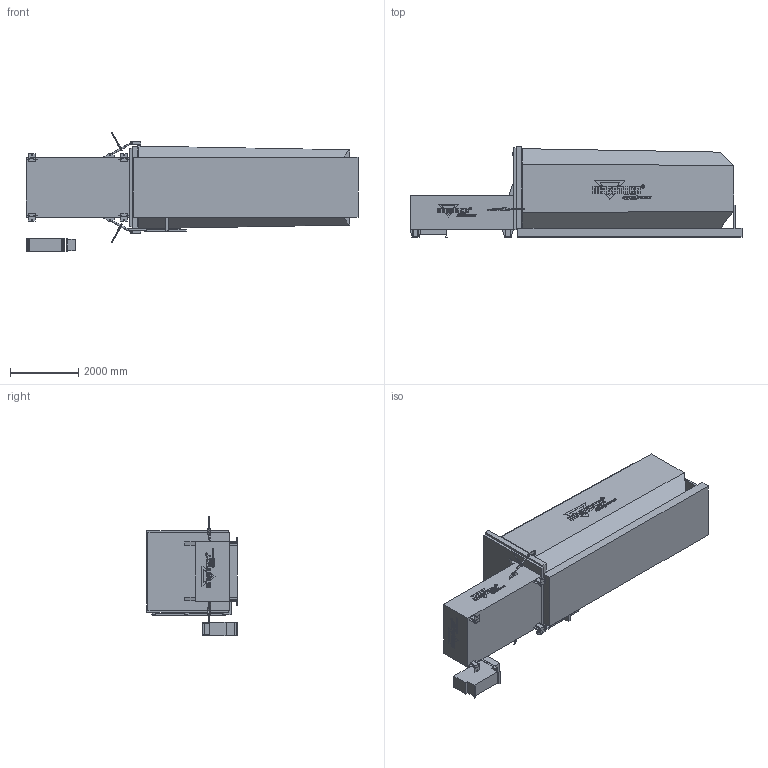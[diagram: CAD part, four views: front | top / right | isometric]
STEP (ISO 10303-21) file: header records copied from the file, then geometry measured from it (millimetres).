
FILE_DESCRIPTION((''),'2;1');
FILE_NAME('75352_ASM','2018-10-01T19:44:33',('10048000'),(''),'CREO PARAMETRIC BY PTC INC, 2017110','CREO PARAMETRIC BY PTC INC, 2017110','');
FILE_SCHEMA(('CONFIG_CONTROL_DESIGN'));
Products named in the file (4): STRUCTURE_75352; OCT_CONTENOR_75352; 75352_POWER-PACK; 75352_ASM
Assembly tree (3 placements, depth 2):
  75352_ASM
    STRUCTURE_75352
    OCT_CONTENOR_75352
    75352_POWER-PACK
Bounding box: 9734.61 x 2641.6 x 3514.08 mm (x, y, z)
Volume: 38505549999.6 mm3; surface area: 129849434.6 mm2
Topology: 4 solids, 8 shells, 4771 faces, 13124 edges, 8722 vertices
Faces by surface type: plane 4373, cylinder 398
Entity records: 149253 total; most frequent: CARTESIAN_POINT 26716, ORIENTED_EDGE 26248, DIRECTION 23482, EDGE_CURVE 13124, VECTOR 12272, LINE 12272, VERTEX_POINT 8722, AXIS2_PLACEMENT_3D 5605
